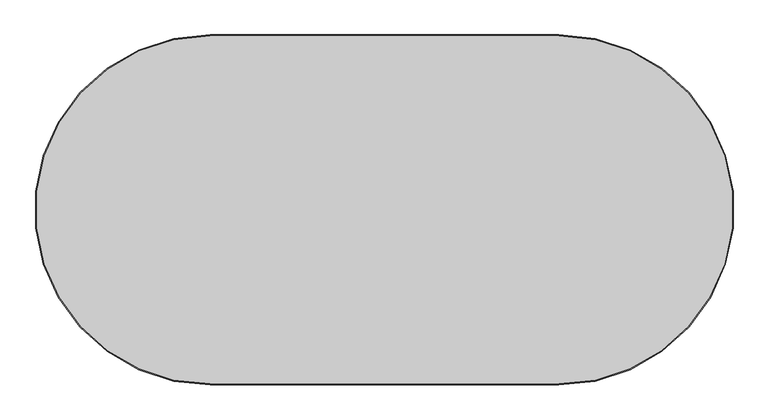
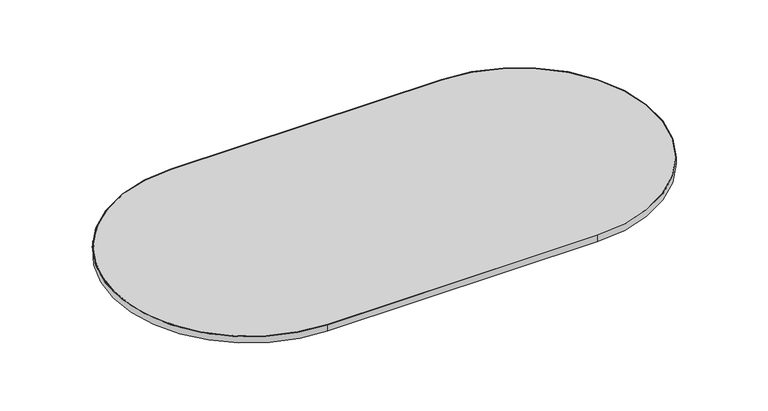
"""IFC4 building model written with IfcOpenShell, lengths in millimetres: furniture geometry, Steelcase - Answer Solution - Universal Table - Capsule - 3mm Edge : 48D x 96W."""

from ifc_helpers import new_model, si_unit, point, frame, frame_2d, origin, place, context, project, spatial, polyline, circle_curve, trimmed, segment, composite_curve, outline, extrude, source, transform, mapped, element, save


def furniture_b2e68e31(model_context):
    return source(origin(), model_context, "Body", "SweptSolid", [
        extrude(outline(composite_curve([segment(trimmed(circle_curve(frame_2d((609.6, 0.0)), 612.6), [point((609.6, 612.6))], [point((609.6, -612.6))], False, "CARTESIAN"), True, "CONTINUOUS"), segment(polyline([(609.6, -612.6), (-609.6, -612.6)]), True, "CONTINUOUS"), segment(trimmed(circle_curve(frame_2d((-609.6, 0.0)), 612.6), [point((-609.6, -612.6))], [point((-609.6, 612.6))], False, "CARTESIAN"), True, "CONTINUOUS"), segment(polyline([(-609.6, 612.6), (609.6, 612.6)]), True, "CONTINUOUS")], self_intersect=False), holes=[composite_curve([segment(trimmed(circle_curve(frame_2d((-609.6, 0.0)), 609.6), [point((-609.6, 609.6))], [point((-609.6, -609.6))], True, "CARTESIAN"), True, "CONTINUOUS"), segment(polyline([(-609.6, -609.6), (609.6, -609.6)]), True, "CONTINUOUS"), segment(trimmed(circle_curve(frame_2d((609.6, 0.0)), 609.6), [point((609.6, -609.6))], [point((609.6, 609.6))], True, "CARTESIAN"), True, "CONTINUOUS"), segment(polyline([(609.6, 609.6), (-609.6, 609.6)]), True, "CONTINUOUS")], self_intersect=False)]), frame((0.0, 0.0, 668.274), z_axis=(0.0, 0.0, 1.0), x_axis=(1.0, 0.0, 0.0)), (0.0, 0.0, 1.0), 30.0990349),
        extrude(outline(composite_curve([segment(polyline([(-609.6, 609.6), (609.6, 609.6)]), True, "CONTINUOUS"), segment(trimmed(circle_curve(frame_2d((609.6, 0.0)), 609.6), [point((609.6, 609.6))], [point((609.6, -609.6))], False, "CARTESIAN"), True, "CONTINUOUS"), segment(polyline([(609.6, -609.6), (-609.6, -609.6)]), True, "CONTINUOUS"), segment(trimmed(circle_curve(frame_2d((-609.6, 0.0)), 609.6), [point((-609.6, -609.6))], [point((-609.6, 609.6))], False, "CARTESIAN"), True, "CONTINUOUS")], self_intersect=False)), frame((0.0, 0.0, 668.274), z_axis=(0.0, 0.0, 1.0), x_axis=(1.0, 0.0, 0.0)), (0.0, 0.0, 1.0), 30.0990349),
    ])


if __name__ == "__main__":
    model = new_model("IFC4")
    model_context = context("Model", 3, world=origin())
    ifc_project = project(units=[si_unit("LENGTHUNIT", "METRE", prefix="MILLI")], contexts=[model_context])
    site = spatial("IfcSite", under=ifc_project)
    building = spatial("IfcBuilding", under=site)
    placement = place(None, origin())
    furniture_shape = furniture_b2e68e31(model_context)
    element("IfcFurniture", 1, ObjectType="Steelcase - Answer Solution - Universal Table - Capsule - 3mm Edge : 48D x 96W", at=placement, inside=building, context=model_context, shape_type="MappedRepresentation", body=[
        mapped(furniture_shape, transform((0.0, 0.0, 0.0), x_axis=(1.0, 0.0, 0.0), y_axis=(0.0, 1.0, 0.0), z_axis=(0.0, 0.0, 1.0))),
    ])
    save(model, "model.ifc")
